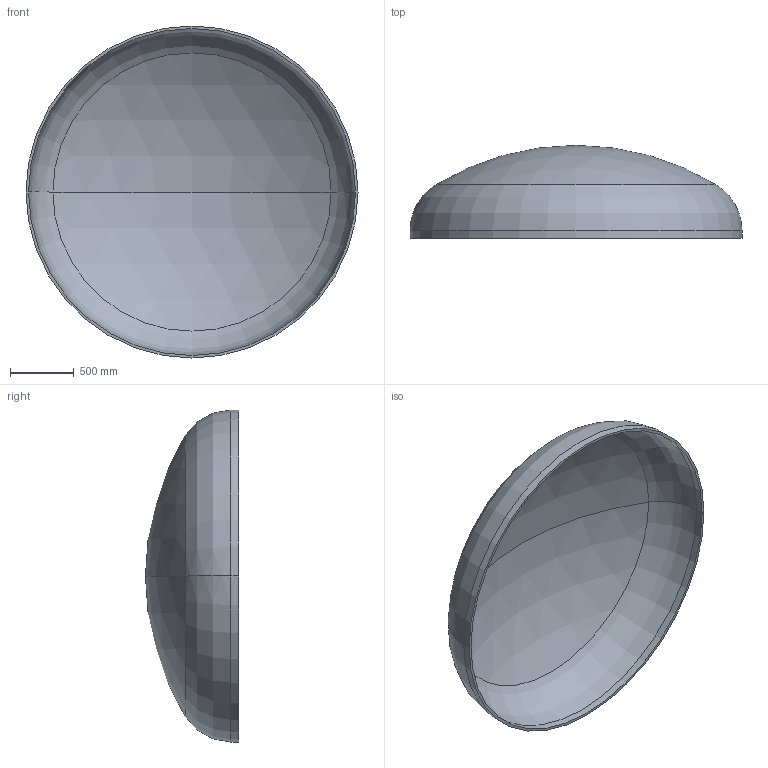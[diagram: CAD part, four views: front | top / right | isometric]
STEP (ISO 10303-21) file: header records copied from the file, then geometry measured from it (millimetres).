
FILE_DESCRIPTION (( 'STEP AP203' ), '1' );
FILE_NAME ('DIN 28013 Korbbogenform_-_Boden DIN 28013 - 2600 x 60 - I - s=20.step', '2016-07-01T15:58:36', ( '' ), ( '' ), 'SwSTEP 2.0', 'SolidWorks 2013', '' );
FILE_SCHEMA (( 'CONFIG_CONTROL_DESIGN' ));
Length unit declared in the file: millimetre
Products named in the file (1): DIN 28013 Korbbogenform_-_Boden DIN 28013 - 2600 x 60 - I - s=20
Bounding box: 2600 x 728.92 x 2600 mm (x, y, z)
Volume: 155276622.7 mm3; surface area: 15690600.3 mm2
Topology: 1 solids, 1 shells, 13 faces, 24 edges, 14 vertices
Faces by surface type: torus 4, cylinder 4, sphere 4, plane 1
Entity records: 407 total; most frequent: DIRECTION 72, CARTESIAN_POINT 52, ORIENTED_EDGE 48, AXIS2_PLACEMENT_3D 34, EDGE_CURVE 24, CIRCLE 20, EDGE_LOOP 14, VERTEX_POINT 14
